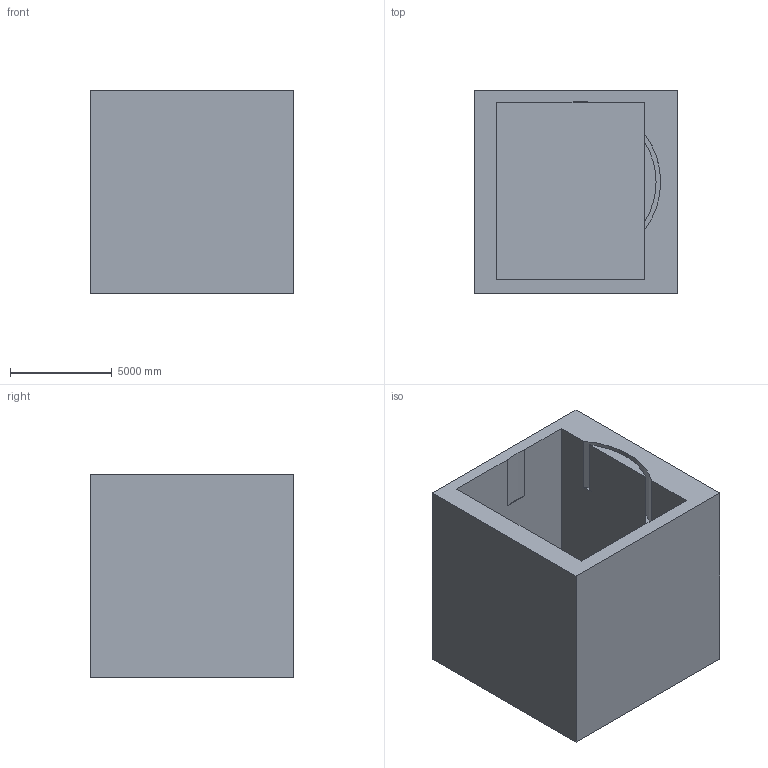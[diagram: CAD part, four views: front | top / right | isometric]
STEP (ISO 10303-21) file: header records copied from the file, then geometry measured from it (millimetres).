
FILE_DESCRIPTION (( 'STEP AP203' ), '1' );
FILE_NAME ('51.STEP', '2022-07-28T13:29:46', ( 'user' ), ( '' ), 'SwSTEP 2.0', 'SolidWorks 2021', '' );
FILE_SCHEMA (( 'CONFIG_CONTROL_DESIGN' ));
Length unit declared in the file: centimetre
Products named in the file (1): 51
Bounding box: 10000 x 10000 x 10000 mm (x, y, z)
Volume: 450794487217 mm3; surface area: 898652949.2 mm2
Topology: 1 solids, 1 shells, 19 faces, 48 edges, 32 vertices
Faces by surface type: plane 14, cylinder 5
Entity records: 649 total; most frequent: CARTESIAN_POINT 100, DIRECTION 98, ORIENTED_EDGE 96, EDGE_CURVE 48, VECTOR 38, LINE 38, VERTEX_POINT 32, AXIS2_PLACEMENT_3D 30
